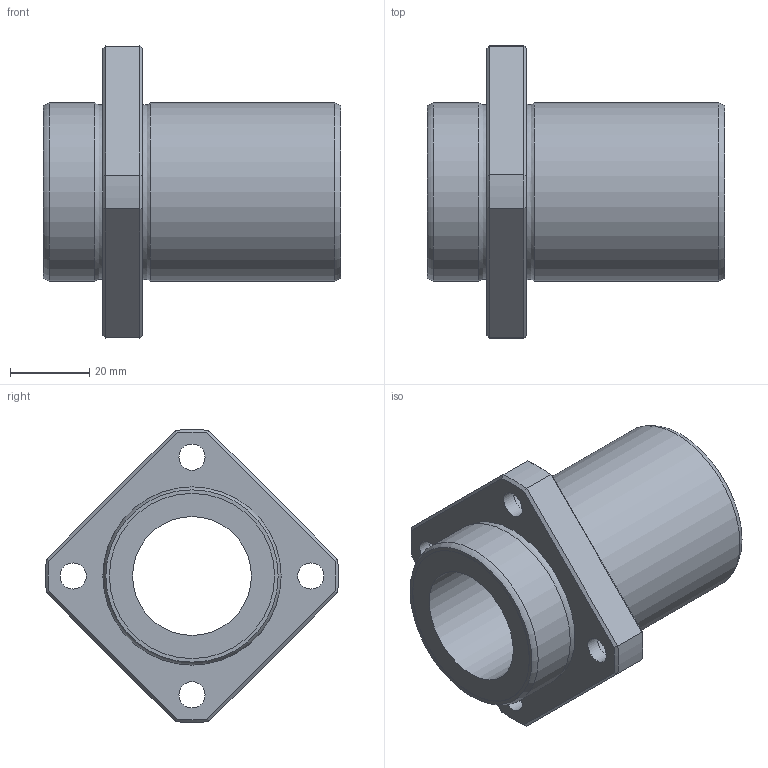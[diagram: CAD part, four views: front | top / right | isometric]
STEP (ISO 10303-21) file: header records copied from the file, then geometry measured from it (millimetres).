
FILE_DESCRIPTION((''),'2;1');
FILE_NAME('C:\Documents and Settings\土屋\My Documents\土屋移動用フォルダ\製品 (図面)\カタログ用3D\変換ファイル\OZAK_3D-CAD(STEP形式)\Part1.-Linear Bearings_ﾘﾆｱﾍﾞｱﾘﾝｸﾞ\09_Maintenance Free_ﾒｲﾝﾃﾅﾝｽﾌﾘｰ\L2017-09-21T13:41:20','2017-09-21T13:41:20',('y'),(''),'Autodesk Inventor 11','Autodesk Inventor 11','');
FILE_SCHEMA(('AUTOMOTIVE_DESIGN { 1 0 10303 214 1 1 1 1 }'));
Length unit declared in the file: millimetre
Products named in the file (1): LFKB-MF
Bounding box: 75 x 73.95 x 73.95 mm (x, y, z)
Volume: 79798.1 mm3; surface area: 24331.3 mm2
Topology: 1 solids, 1 shells, 51 faces, 103 edges, 62 vertices
Faces by surface type: plane 18, bspline 14, cylinder 9, cone 8, torus 2
Full cylindrical faces by diameter (mm): 30 x1, 41.7 x2, 45 x2
Entity records: 1517 total; most frequent: CARTESIAN_POINT 520, DIRECTION 192, ORIENTED_EDGE 172, EDGE_CURVE 86, EDGE_LOOP 86, AXIS2_PLACEMENT_3D 84, VERTEX_POINT 62, FACE_OUTER_BOUND 51
